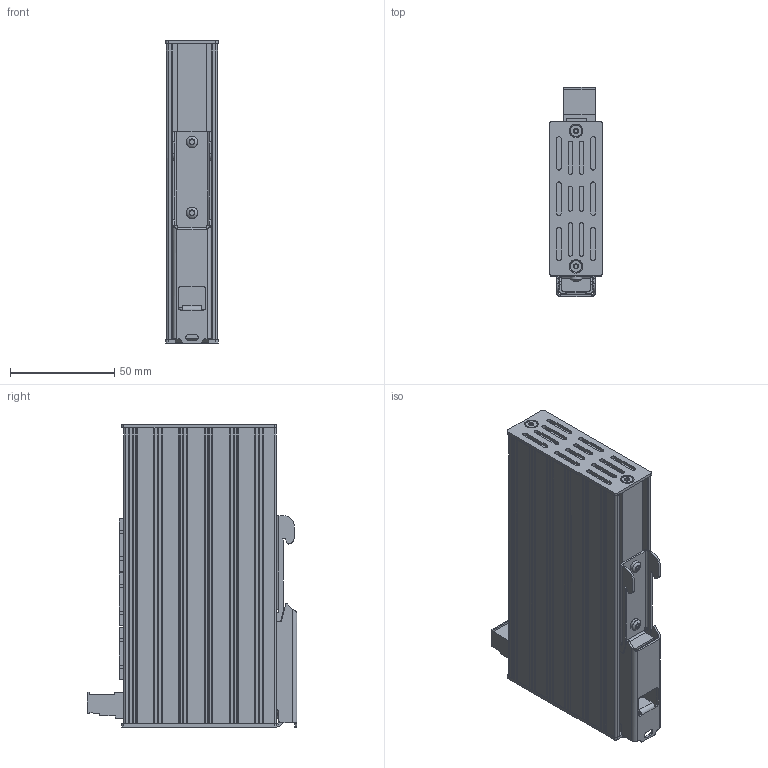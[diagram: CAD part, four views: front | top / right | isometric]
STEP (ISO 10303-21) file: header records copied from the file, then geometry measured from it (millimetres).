
FILE_DESCRIPTION(('TFLEX Exchange Step'),'2;1');
FILE_NAME('TZCA211103X0_NITE-RS23-110X0.stp', '2019-08-01T15:58:38+02:00',('User'),('Unknown organisation'),'TFLEX Exchange 2019.0','T-FLEX CAD','Unknown authorisation');
FILE_SCHEMA( ('AUTOMOTIVE_DESIGN { 1 0 10303 214 1 1 1 1 }') );
Length unit declared in the file: millimetre
Products named in the file (1): BUFFER:00000064F81FC500 
Bounding box: 25 x 100.65 x 145.05 mm (x, y, z)
Volume: 248225 mm3; surface area: 56695.2 mm2
Topology: 2 solids, 28 shells, 2200 faces, 5955 edges, 3923 vertices
Faces by surface type: plane 1312, cylinder 541, bspline 300, torus 22, cone 18, extrusion 5, sphere 2
Full cylindrical faces by diameter (mm): 0.5 x16, 1.2 x11, 1.3 x3, 3 x9, 3.15 x2, 3.2 x4, 3.5 x2, 3.75 x3, 3.95 x3, 5.5 x10, 6 x4
Entity records: 96503 total; most frequent: CARTESIAN_POINT 52816, ORIENTED_EDGE 11878, EDGE_CURVE 5939, B_SPLINE_CURVE_WITH_KNOTS 5928, VERTEX_POINT 3923, DIRECTION 3818, EDGE_LOOP 2370, FACE_BOUND 2370
